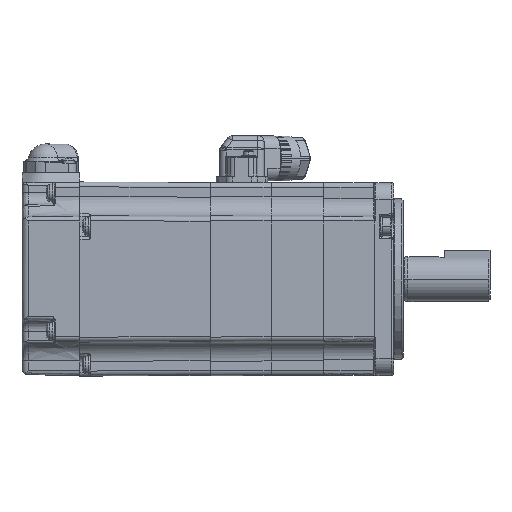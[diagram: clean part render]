
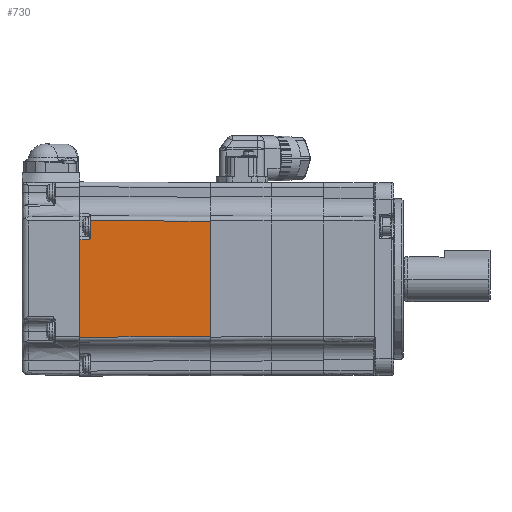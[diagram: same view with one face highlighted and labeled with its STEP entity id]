
A CAD part, top view. The second image highlights one B-rep face of the part: STEP entity #730.
In plain terms, the highlighted planar face has unit normal (0.005, 0, 1).
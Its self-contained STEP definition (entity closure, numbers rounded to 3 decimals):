
#730=ADVANCED_FACE('',(#5105),#5104,.F.);
#5104=PLANE('',#16568);
#5105=FACE_OUTER_BOUND('',#16569,.T.);
#16565=CARTESIAN_POINT('',(-52.95,-21.757,29.915));
#16566=DIRECTION('',(-0.005,0.,-1.));
#16567=DIRECTION('',(-1.,0.,0.005));
#16568=AXIS2_PLACEMENT_3D('',#16565,#16566,#16567);
#16569=EDGE_LOOP('',(#26312,#26313,#26314,#26315,#26316,#26317,#26318));
#26312=ORIENTED_EDGE('',*,*,#31360,.T.);
#26313=ORIENTED_EDGE('',*,*,#31392,.T.);
#26314=ORIENTED_EDGE('',*,*,#31393,.T.);
#26315=ORIENTED_EDGE('',*,*,#31394,.T.);
#26316=ORIENTED_EDGE('',*,*,#31395,.T.);
#26317=ORIENTED_EDGE('',*,*,#31396,.F.);
#26318=ORIENTED_EDGE('',*,*,#31357,.T.);
#31357=EDGE_CURVE('',#41026,#41019,#41027,.T.);
#31360=EDGE_CURVE('',#41019,#41039,#41046,.T.);
#31392=EDGE_CURVE('',#41039,#41263,#41264,.T.);
#31393=EDGE_CURVE('',#41263,#41270,#41271,.T.);
#31394=EDGE_CURVE('',#41270,#41277,#41278,.T.);
#31395=EDGE_CURVE('',#41277,#41284,#41285,.T.);
#31396=EDGE_CURVE('',#41026,#41284,#41291,.T.);
#41019=VERTEX_POINT('',#58165);
#41026=VERTEX_POINT('',#58171);
#41027=(BOUNDED_CURVE() B_SPLINE_CURVE(3,(#58172,#58173,#58174,#58175,#58176,#58177),.UNSPECIFIED.,.F.,.F.) B_SPLINE_CURVE_WITH_KNOTS((4,2,4),(0.,0.,0.001),.UNSPECIFIED.) CURVE() GEOMETRIC_REPRESENTATION_ITEM() RATIONAL_B_SPLINE_CURVE((1.,1.,1.,1.,1.,1.)) REPRESENTATION_ITEM('') );
#41039=VERTEX_POINT('',#58181);
#41046=LINE('',#58185,#58186);
#41263=VERTEX_POINT('',#58337);
#41264=LINE('',#58338,#58339);
#41270=VERTEX_POINT('',#58341);
#41271=LINE('',#58342,#58343);
#41277=VERTEX_POINT('',#58345);
#41278=LINE('',#58346,#58347);
#41284=VERTEX_POINT('',#58349);
#41285=LINE('',#58350,#58351);
#41291=LINE('',#58353,#58354);
#58165=CARTESIAN_POINT('',(-94.501,12.156,30.133));
#58171=CARTESIAN_POINT('',(-94.3,12.821,30.132));
#58172=CARTESIAN_POINT('',(-94.3,12.821,30.132));
#58173=CARTESIAN_POINT('',(-94.3,12.704,30.132));
#58174=CARTESIAN_POINT('',(-94.329,12.59,30.132));
#58175=CARTESIAN_POINT('',(-94.405,12.369,30.132));
#58176=CARTESIAN_POINT('',(-94.454,12.262,30.133));
#58177=CARTESIAN_POINT('',(-94.501,12.156,30.133));
#58181=CARTESIAN_POINT('',(-97.5,12.104,30.149));
#58185=CARTESIAN_POINT('',(-94.501,12.156,30.133));
#58186=VECTOR('',#58187,2.999);
#58187=DIRECTION('',(-1.,-0.017,0.005));
#58337=CARTESIAN_POINT('',(-97.5,-18.133,30.149));
#58338=CARTESIAN_POINT('',(-97.5,12.104,30.149));
#58339=VECTOR('',#58340,30.237);
#58340=DIRECTION('',(0.,-1.,0.));
#58341=CARTESIAN_POINT('',(-57.,-17.92,29.937));
#58342=CARTESIAN_POINT('',(-97.5,-18.133,30.149));
#58343=VECTOR('',#58344,40.501);
#58344=DIRECTION('',(1.,0.005,-0.005));
#58345=CARTESIAN_POINT('',(-57.,17.92,29.937));
#58346=CARTESIAN_POINT('',(-57.,-17.92,29.937));
#58347=VECTOR('',#58348,35.841);
#58348=DIRECTION('',(0.,1.,0.));
#58349=CARTESIAN_POINT('',(-94.3,18.116,30.132));
#58350=CARTESIAN_POINT('',(-57.,17.92,29.937));
#58351=VECTOR('',#58352,37.301);
#58352=DIRECTION('',(-1.,0.005,0.005));
#58353=CARTESIAN_POINT('',(-94.3,12.821,30.132));
#58354=VECTOR('',#58355,5.294);
#58355=DIRECTION('',(0.,1.,0.));
